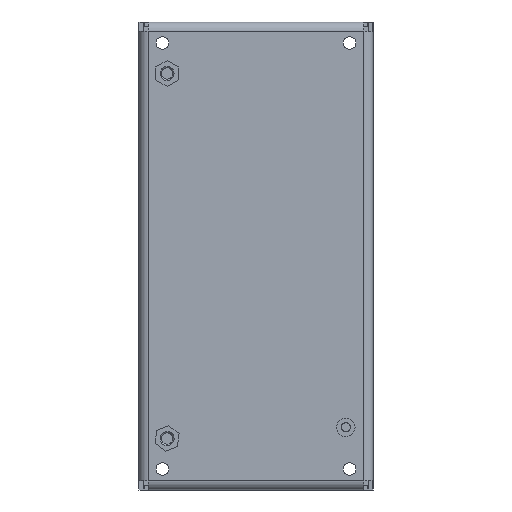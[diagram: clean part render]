
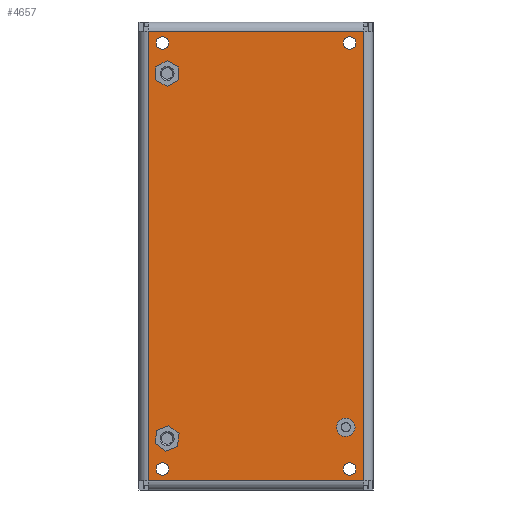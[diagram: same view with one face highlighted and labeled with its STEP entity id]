
A CAD part, front view. The second image highlights one B-rep face of the part: STEP entity #4657.
In plain terms, the highlighted planar face has unit normal (0, -1, 0).
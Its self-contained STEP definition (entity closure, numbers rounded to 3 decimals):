
#4657=ADVANCED_FACE('',(#10355,#10357,#10359,#10361,#10363,#10365,#10367,#10369),
#10371,.T.);
#10355=FACE_BOUND('',#10356,.T.);
#10356=EDGE_LOOP('',(#14855,#14856,#14857,#14858));
#10357=FACE_BOUND('',#10358,.T.);
#10358=EDGE_LOOP('',(#14859,#14860,#14861,#14862,#14863,#14864));
#10359=FACE_BOUND('',#10360,.T.);
#10360=EDGE_LOOP('',(#14865,#14866,#14867,#14868,#14869,#14870));
#10361=FACE_BOUND('',#10362,.T.);
#10362=EDGE_LOOP('',(#14871));
#10363=FACE_BOUND('',#10364,.T.);
#10364=EDGE_LOOP('',(#14872));
#10365=FACE_BOUND('',#10366,.T.);
#10366=EDGE_LOOP('',(#14873));
#10367=FACE_BOUND('',#10368,.T.);
#10368=EDGE_LOOP('',(#14874));
#10369=FACE_BOUND('',#10370,.T.);
#10370=EDGE_LOOP('',(#14875));
#10371=PLANE('',#10372);
#10372=AXIS2_PLACEMENT_3D('',#10373,#10374,#10375);
#10373=CARTESIAN_POINT('',(-25.,0.,-50.));
#10374=DIRECTION('',(0.,-1.,0.));
#10375=DIRECTION('',(0.,0.,-1.));
#14855=ORIENTED_EDGE('',*,*,#16889,.T.);
#14856=ORIENTED_EDGE('',*,*,#16941,.T.);
#14857=ORIENTED_EDGE('',*,*,#17091,.T.);
#14858=ORIENTED_EDGE('',*,*,#16939,.T.);
#14859=ORIENTED_EDGE('',*,*,#17094,.F.);
#14860=ORIENTED_EDGE('',*,*,#17095,.F.);
#14861=ORIENTED_EDGE('',*,*,#17096,.F.);
#14862=ORIENTED_EDGE('',*,*,#17097,.F.);
#14863=ORIENTED_EDGE('',*,*,#17098,.F.);
#14864=ORIENTED_EDGE('',*,*,#17099,.F.);
#14865=ORIENTED_EDGE('',*,*,#17100,.F.);
#14866=ORIENTED_EDGE('',*,*,#17101,.F.);
#14867=ORIENTED_EDGE('',*,*,#17102,.F.);
#14868=ORIENTED_EDGE('',*,*,#17103,.F.);
#14869=ORIENTED_EDGE('',*,*,#17104,.F.);
#14870=ORIENTED_EDGE('',*,*,#17105,.F.);
#14871=ORIENTED_EDGE('',*,*,#17106,.F.);
#14872=ORIENTED_EDGE('',*,*,#17107,.T.);
#14873=ORIENTED_EDGE('',*,*,#17108,.T.);
#14874=ORIENTED_EDGE('',*,*,#17109,.T.);
#14875=ORIENTED_EDGE('',*,*,#17110,.T.);
#16889=EDGE_CURVE('',#18705,#18708,#19570,.T.);
#16939=EDGE_CURVE('',#19555,#18705,#19651,.T.);
#16941=EDGE_CURVE('',#18708,#19552,#19653,.T.);
#17091=EDGE_CURVE('',#19552,#19555,#19867,.T.);
#17094=EDGE_CURVE('',#19872,#19873,#19874,.T.);
#17095=EDGE_CURVE('',#19875,#19872,#19876,.T.);
#17096=EDGE_CURVE('',#19877,#19875,#19878,.T.);
#17097=EDGE_CURVE('',#19879,#19877,#19880,.T.);
#17098=EDGE_CURVE('',#19881,#19879,#19882,.T.);
#17099=EDGE_CURVE('',#19873,#19881,#19883,.T.);
#17100=EDGE_CURVE('',#19884,#19885,#19886,.T.);
#17101=EDGE_CURVE('',#19887,#19884,#19888,.T.);
#17102=EDGE_CURVE('',#19889,#19887,#19890,.T.);
#17103=EDGE_CURVE('',#19891,#19889,#19892,.T.);
#17104=EDGE_CURVE('',#19893,#19891,#19894,.T.);
#17105=EDGE_CURVE('',#19885,#19893,#19895,.T.);
#17106=EDGE_CURVE('',#19896,#19896,#19897,.T.);
#17107=EDGE_CURVE('',#19898,#19898,#19899,.T.);
#17108=EDGE_CURVE('',#19900,#19900,#19901,.T.);
#17109=EDGE_CURVE('',#19902,#19902,#19903,.T.);
#17110=EDGE_CURVE('',#19904,#19904,#19905,.T.);
#18705=VERTEX_POINT('',#23357);
#18708=VERTEX_POINT('',#23365);
#19552=VERTEX_POINT('',#25319);
#19555=VERTEX_POINT('',#25327);
#19570=LINE('',#25767,#25768);
#19651=LINE('',#26066,#26067);
#19653=LINE('',#26073,#26074);
#19867=LINE('',#26628,#26629);
#19872=VERTEX_POINT('',#26843);
#19873=VERTEX_POINT('',#26844);
#19874=LINE('',#26845,#26846);
#19875=VERTEX_POINT('',#26848);
#19876=LINE('',#26849,#26850);
#19877=VERTEX_POINT('',#26852);
#19878=LINE('',#26853,#26854);
#19879=VERTEX_POINT('',#26856);
#19880=LINE('',#26857,#26858);
#19881=VERTEX_POINT('',#26860);
#19882=LINE('',#26861,#26862);
#19883=LINE('',#26864,#26865);
#19884=VERTEX_POINT('',#26867);
#19885=VERTEX_POINT('',#26868);
#19886=LINE('',#26869,#26870);
#19887=VERTEX_POINT('',#26872);
#19888=LINE('',#26873,#26874);
#19889=VERTEX_POINT('',#26876);
#19890=LINE('',#26877,#26878);
#19891=VERTEX_POINT('',#26880);
#19892=LINE('',#26881,#26882);
#19893=VERTEX_POINT('',#26884);
#19894=LINE('',#26885,#26886);
#19895=LINE('',#26888,#26889);
#19896=VERTEX_POINT('',#26891);
#19897=CIRCLE('',#26892,1.98);
#19898=VERTEX_POINT('',#26896);
#19899=CIRCLE('',#26897,1.35);
#19900=VERTEX_POINT('',#26901);
#19901=CIRCLE('',#26902,1.35);
#19902=VERTEX_POINT('',#26906);
#19903=CIRCLE('',#26907,1.35);
#19904=VERTEX_POINT('',#26911);
#19905=CIRCLE('',#26912,1.35);
#23357=CARTESIAN_POINT('',(-23.,0.,48.));
#23365=CARTESIAN_POINT('',(-23.,0.,-48.));
#25319=CARTESIAN_POINT('',(23.,0.,-48.));
#25327=CARTESIAN_POINT('',(23.,0.,48.));
#25767=CARTESIAN_POINT('',(-23.,0.,48.));
#25768=VECTOR('',#25769,1.);
#25769=DIRECTION('',(0.,0.,-1.));
#26066=CARTESIAN_POINT('',(23.,0.,48.));
#26067=VECTOR('',#26068,1.);
#26068=DIRECTION('',(-1.,0.,0.));
#26073=CARTESIAN_POINT('',(-23.,0.,-48.));
#26074=VECTOR('',#26075,1.);
#26075=DIRECTION('',(1.,0.,0.));
#26628=CARTESIAN_POINT('',(23.,0.,-48.));
#26629=VECTOR('',#26630,1.);
#26630=DIRECTION('',(0.,0.,1.));
#26843=CARTESIAN_POINT('',(-19.382,0.,-41.745));
#26844=CARTESIAN_POINT('',(-16.814,0.,-40.703));
#26845=CARTESIAN_POINT('',(-19.382,0.,-41.745));
#26846=VECTOR('',#26847,1.);
#26847=DIRECTION('',(0.927,0.,0.376));
#26848=CARTESIAN_POINT('',(-21.568,0.,-40.041));
#26849=CARTESIAN_POINT('',(-21.568,0.,-40.041));
#26850=VECTOR('',#26851,1.);
#26851=DIRECTION('',(0.789,0.,-0.615));
#26852=CARTESIAN_POINT('',(-21.186,0.,-37.297));
#26853=CARTESIAN_POINT('',(-21.186,0.,-37.297));
#26854=VECTOR('',#26855,1.);
#26855=DIRECTION('',(-0.138,0.,-0.99));
#26856=CARTESIAN_POINT('',(-18.618,0.,-36.255));
#26857=CARTESIAN_POINT('',(-18.618,0.,-36.255));
#26858=VECTOR('',#26859,1.);
#26859=DIRECTION('',(-0.927,0.,-0.376));
#26860=CARTESIAN_POINT('',(-16.432,0.,-37.959));
#26861=CARTESIAN_POINT('',(-16.432,0.,-37.959));
#26862=VECTOR('',#26863,1.);
#26863=DIRECTION('',(-0.789,0.,0.615));
#26864=CARTESIAN_POINT('',(-16.814,0.,-40.703));
#26865=VECTOR('',#26866,1.);
#26866=DIRECTION('',(0.138,0.,0.99));
#26867=CARTESIAN_POINT('',(-21.4,0.,37.614));
#26868=CARTESIAN_POINT('',(-19.,0.,36.229));
#26869=CARTESIAN_POINT('',(-21.4,0.,37.614));
#26870=VECTOR('',#26871,1.);
#26871=DIRECTION('',(0.866,0.,-0.5));
#26872=CARTESIAN_POINT('',(-21.4,0.,40.386));
#26873=CARTESIAN_POINT('',(-21.4,0.,40.386));
#26874=VECTOR('',#26875,1.);
#26875=DIRECTION('',(0.,0.,-1.));
#26876=CARTESIAN_POINT('',(-19.,0.,41.771));
#26877=CARTESIAN_POINT('',(-19.,0.,41.771));
#26878=VECTOR('',#26879,1.);
#26879=DIRECTION('',(-0.866,0.,-0.5));
#26880=CARTESIAN_POINT('',(-16.6,0.,40.386));
#26881=CARTESIAN_POINT('',(-16.6,0.,40.386));
#26882=VECTOR('',#26883,1.);
#26883=DIRECTION('',(-0.866,0.,0.5));
#26884=CARTESIAN_POINT('',(-16.6,0.,37.614));
#26885=CARTESIAN_POINT('',(-16.6,0.,37.614));
#26886=VECTOR('',#26887,1.);
#26887=DIRECTION('',(0.,0.,1.));
#26888=CARTESIAN_POINT('',(-19.,0.,36.229));
#26889=VECTOR('',#26890,1.);
#26890=DIRECTION('',(0.866,0.,0.5));
#26891=CARTESIAN_POINT('',(20.921,0.,-37.58));
#26892=AXIS2_PLACEMENT_3D('',#26893,#26894,#26895);
#26893=CARTESIAN_POINT('',(19.2,0.,-36.6));
#26894=DIRECTION('',(0.,-1.,0.));
#26895=DIRECTION('',(0.869,0.,-0.495));
#26896=CARTESIAN_POINT('',(20.,0.,46.85));
#26897=AXIS2_PLACEMENT_3D('',#26898,#26899,#26900);
#26898=CARTESIAN_POINT('',(20.,0.,45.5));
#26899=DIRECTION('',(-0.,1.,-0.));
#26900=DIRECTION('',(0.,0.,-1.));
#26901=CARTESIAN_POINT('',(-20.,0.,46.85));
#26902=AXIS2_PLACEMENT_3D('',#26903,#26904,#26905);
#26903=CARTESIAN_POINT('',(-20.,0.,45.5));
#26904=DIRECTION('',(-0.,1.,-0.));
#26905=DIRECTION('',(0.,0.,-1.));
#26906=CARTESIAN_POINT('',(-20.,0.,-44.15));
#26907=AXIS2_PLACEMENT_3D('',#26908,#26909,#26910);
#26908=CARTESIAN_POINT('',(-20.,0.,-45.5));
#26909=DIRECTION('',(-0.,1.,-0.));
#26910=DIRECTION('',(0.,0.,-1.));
#26911=CARTESIAN_POINT('',(20.,0.,-44.15));
#26912=AXIS2_PLACEMENT_3D('',#26913,#26914,#26915);
#26913=CARTESIAN_POINT('',(20.,0.,-45.5));
#26914=DIRECTION('',(-0.,1.,-0.));
#26915=DIRECTION('',(0.,0.,-1.));
